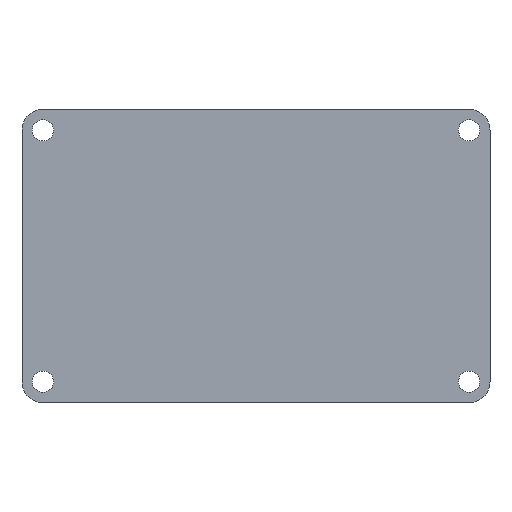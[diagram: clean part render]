
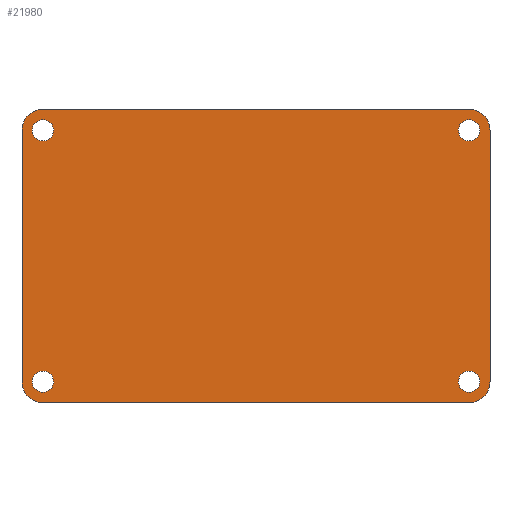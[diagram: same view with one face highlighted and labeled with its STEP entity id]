
A CAD part, front view. The second image highlights one B-rep face of the part: STEP entity #21980.
In plain terms, the highlighted planar face has unit normal (0, -1, 0).
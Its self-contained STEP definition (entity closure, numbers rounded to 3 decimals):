
#158 = VERTEX_POINT ( 'NONE', #6026 ) ;
#530 = EDGE_CURVE ( 'NONE', #39793, #13585, #26598, .T. ) ;
#909 = CIRCLE ( 'NONE', #18501, 1.525 ) ;
#1018 = AXIS2_PLACEMENT_3D ( 'NONE', #2380, #20051, #23168 ) ;
#1256 = FACE_OUTER_BOUND ( 'NONE', #25812, .T. ) ;
#1657 = DIRECTION ( 'NONE',  ( 0., -1., 0. ) ) ;
#1681 = DIRECTION ( 'NONE',  ( -1., 0., 0. ) ) ;
#1705 = DIRECTION ( 'NONE',  ( 0., 0., 1. ) ) ;
#2380 = CARTESIAN_POINT ( 'NONE',  ( -66.412, 0.013, 35.558 ) ) ;
#2740 = CARTESIAN_POINT ( 'NONE',  ( -63.412, 0.013, 37.033 ) ) ;
#2760 = AXIS2_PLACEMENT_3D ( 'NONE', #28518, #13262, #35031 ) ;
#2826 = ORIENTED_EDGE ( 'NONE', *, *, #530, .T. ) ;
#2892 = ORIENTED_EDGE ( 'NONE', *, *, #32408, .T. ) ;
#3193 = EDGE_CURVE ( 'NONE', #38113, #29791, #27199, .T. ) ;
#3337 = CIRCLE ( 'NONE', #2760, 3. ) ;
#3643 = CARTESIAN_POINT ( 'NONE',  ( -2.412, 0.013, 73.033 ) ) ;
#3971 = EDGE_CURVE ( 'NONE', #11602, #4825, #16139, .T. ) ;
#4426 = DIRECTION ( 'NONE',  ( 0., 1., 0. ) ) ;
#4560 = ORIENTED_EDGE ( 'NONE', *, *, #13462, .F. ) ;
#4825 = VERTEX_POINT ( 'NONE', #10258 ) ;
#4918 = DIRECTION ( 'NONE',  ( 1., 0., 0. ) ) ;
#5420 = VERTEX_POINT ( 'NONE', #22602 ) ;
#5807 = CARTESIAN_POINT ( 'NONE',  ( -2.412, 0.013, 40.083 ) ) ;
#6026 = CARTESIAN_POINT ( 'NONE',  ( -2.412, 0.013, 77.558 ) ) ;
#6485 = EDGE_CURVE ( 'NONE', #21504, #39294, #26604, .T. ) ;
#6762 = VERTEX_POINT ( 'NONE', #7851 ) ;
#7087 = DIRECTION ( 'NONE',  ( 0., 0., 1. ) ) ;
#7647 = ORIENTED_EDGE ( 'NONE', *, *, #30108, .F. ) ;
#7851 = CARTESIAN_POINT ( 'NONE',  ( 0.588, 0.013, 74.558 ) ) ;
#8316 = ORIENTED_EDGE ( 'NONE', *, *, #27112, .F. ) ;
#8400 = LINE ( 'NONE', #14582, #18143 ) ;
#8928 = EDGE_CURVE ( 'NONE', #29791, #38113, #26624, .T. ) ;
#9509 = CARTESIAN_POINT ( 'NONE',  ( -66.412, 0.013, 38.558 ) ) ;
#9852 = DIRECTION ( 'NONE',  ( 0., -1., 0. ) ) ;
#9958 = FACE_BOUND ( 'NONE', #18154, .T. ) ;
#10003 = DIRECTION ( 'NONE',  ( 0., 0., 1. ) ) ;
#10257 = PLANE ( 'NONE',  #1018 ) ;
#10258 = CARTESIAN_POINT ( 'NONE',  ( -2.412, 0.013, 37.033 ) ) ;
#11184 = DIRECTION ( 'NONE',  ( 0., 0., 1. ) ) ;
#11602 = VERTEX_POINT ( 'NONE', #5807 ) ;
#11713 = VECTOR ( 'NONE', #1705, 1000. ) ;
#11763 = EDGE_CURVE ( 'NONE', #6762, #158, #3337, .T. ) ;
#12455 = DIRECTION ( 'NONE',  ( 0., 1., 0. ) ) ;
#12926 = ORIENTED_EDGE ( 'NONE', *, *, #22201, .T. ) ;
#13069 = EDGE_LOOP ( 'NONE', ( #18992, #38887 ) ) ;
#13262 = DIRECTION ( 'NONE',  ( 0., -1., 0. ) ) ;
#13400 = ORIENTED_EDGE ( 'NONE', *, *, #38215, .T. ) ;
#13462 = EDGE_CURVE ( 'NONE', #6762, #13585, #18233, .T. ) ;
#13585 = VERTEX_POINT ( 'NONE', #20429 ) ;
#13780 = DIRECTION ( 'NONE',  ( 0., 0., 1. ) ) ;
#14582 = CARTESIAN_POINT ( 'NONE',  ( -66.412, 0.013, 77.558 ) ) ;
#14743 = AXIS2_PLACEMENT_3D ( 'NONE', #16336, #32263, #25979 ) ;
#15237 = CARTESIAN_POINT ( 'NONE',  ( -2.412, 0.013, 35.558 ) ) ;
#15364 = ORIENTED_EDGE ( 'NONE', *, *, #6485, .T. ) ;
#15942 = CARTESIAN_POINT ( 'NONE',  ( -2.412, 0.013, 74.558 ) ) ;
#16139 = CIRCLE ( 'NONE', #16725, 1.525 ) ;
#16336 = CARTESIAN_POINT ( 'NONE',  ( -63.412, 0.013, 74.558 ) ) ;
#16725 = AXIS2_PLACEMENT_3D ( 'NONE', #36178, #17518, #24047 ) ;
#17228 = CARTESIAN_POINT ( 'NONE',  ( -63.412, 0.013, 73.033 ) ) ;
#17518 = DIRECTION ( 'NONE',  ( 0., 1., 0. ) ) ;
#17904 = CARTESIAN_POINT ( 'NONE',  ( -63.412, 0.013, 77.558 ) ) ;
#18143 = VECTOR ( 'NONE', #4918, 1000. ) ;
#18154 = EDGE_LOOP ( 'NONE', ( #34757, #12926 ) ) ;
#18233 = LINE ( 'NONE', #19652, #20169 ) ;
#18501 = AXIS2_PLACEMENT_3D ( 'NONE', #22258, #25380, #10003 ) ;
#18553 = DIRECTION ( 'NONE',  ( 0., 0., 1. ) ) ;
#18733 = AXIS2_PLACEMENT_3D ( 'NONE', #34073, #30543, #18553 ) ;
#18992 = ORIENTED_EDGE ( 'NONE', *, *, #3971, .T. ) ;
#19222 = FACE_BOUND ( 'NONE', #31900, .T. ) ;
#19298 = CARTESIAN_POINT ( 'NONE',  ( -66.412, 0.013, 74.558 ) ) ;
#19472 = ORIENTED_EDGE ( 'NONE', *, *, #29929, .F. ) ;
#19652 = CARTESIAN_POINT ( 'NONE',  ( 0.588, 0.013, 35.558 ) ) ;
#20051 = DIRECTION ( 'NONE',  ( 0., 1., 0. ) ) ;
#20169 = VECTOR ( 'NONE', #35425, 1000. ) ;
#20429 = CARTESIAN_POINT ( 'NONE',  ( 0.588, 0.013, 38.558 ) ) ;
#20479 = EDGE_CURVE ( 'NONE', #26410, #21406, #33041, .T. ) ;
#20568 = ORIENTED_EDGE ( 'NONE', *, *, #3193, .T. ) ;
#21047 = VERTEX_POINT ( 'NONE', #2740 ) ;
#21406 = VERTEX_POINT ( 'NONE', #17228 ) ;
#21423 = DIRECTION ( 'NONE',  ( 0., 0., 1. ) ) ;
#21469 = ORIENTED_EDGE ( 'NONE', *, *, #8928, .T. ) ;
#21504 = VERTEX_POINT ( 'NONE', #17904 ) ;
#21980 = ADVANCED_FACE ( 'NONE', ( #34810, #19222, #24547, #9958, #1256 ), #10257, .F. ) ;
#22064 = DIRECTION ( 'NONE',  ( 0., 0., 1. ) ) ;
#22201 = EDGE_CURVE ( 'NONE', #21406, #26410, #25487, .T. ) ;
#22258 = CARTESIAN_POINT ( 'NONE',  ( -63.412, 0.013, 38.558 ) ) ;
#22484 = AXIS2_PLACEMENT_3D ( 'NONE', #32573, #32425, #13780 ) ;
#22552 = AXIS2_PLACEMENT_3D ( 'NONE', #29818, #1657, #11184 ) ;
#22587 = DIRECTION ( 'NONE',  ( 0., 1., 0. ) ) ;
#22602 = CARTESIAN_POINT ( 'NONE',  ( -63.412, 0.013, 40.083 ) ) ;
#23028 = CARTESIAN_POINT ( 'NONE',  ( -66.412, 0.013, 35.558 ) ) ;
#23067 = AXIS2_PLACEMENT_3D ( 'NONE', #35120, #22587, #7087 ) ;
#23168 = DIRECTION ( 'NONE',  ( 0., 0., 1. ) ) ;
#24047 = DIRECTION ( 'NONE',  ( 0., 0., 1. ) ) ;
#24462 = LINE ( 'NONE', #23028, #30821 ) ;
#24547 = FACE_BOUND ( 'NONE', #38296, .T. ) ;
#25053 = CARTESIAN_POINT ( 'NONE',  ( -63.412, 0.013, 76.083 ) ) ;
#25356 = CARTESIAN_POINT ( 'NONE',  ( -2.412, 0.013, 38.558 ) ) ;
#25380 = DIRECTION ( 'NONE',  ( 0., 1., 0. ) ) ;
#25487 = CIRCLE ( 'NONE', #18733, 1.525 ) ;
#25523 = AXIS2_PLACEMENT_3D ( 'NONE', #27845, #37505, #21423 ) ;
#25812 = EDGE_LOOP ( 'NONE', ( #7647, #15364, #8316, #2892, #19472, #2826, #4560, #38628 ) ) ;
#25979 = DIRECTION ( 'NONE',  ( 0., 0., 1. ) ) ;
#26165 = DIRECTION ( 'NONE',  ( 0., 0., 1. ) ) ;
#26410 = VERTEX_POINT ( 'NONE', #25053 ) ;
#26598 = CIRCLE ( 'NONE', #36393, 3. ) ;
#26604 = CIRCLE ( 'NONE', #22552, 3. ) ;
#26624 = CIRCLE ( 'NONE', #26625, 1.525 ) ;
#26625 = AXIS2_PLACEMENT_3D ( 'NONE', #15942, #12455, #22064 ) ;
#27112 = EDGE_CURVE ( 'NONE', #39132, #39294, #30212, .T. ) ;
#27199 = CIRCLE ( 'NONE', #25523, 1.525 ) ;
#27839 = CARTESIAN_POINT ( 'NONE',  ( -2.412, 0.013, 76.083 ) ) ;
#27845 = CARTESIAN_POINT ( 'NONE',  ( -2.412, 0.013, 74.558 ) ) ;
#28110 = ORIENTED_EDGE ( 'NONE', *, *, #37077, .T. ) ;
#28518 = CARTESIAN_POINT ( 'NONE',  ( -2.412, 0.013, 74.558 ) ) ;
#29791 = VERTEX_POINT ( 'NONE', #27839 ) ;
#29818 = CARTESIAN_POINT ( 'NONE',  ( -63.412, 0.013, 74.558 ) ) ;
#29929 = EDGE_CURVE ( 'NONE', #39793, #33440, #24462, .T. ) ;
#30108 = EDGE_CURVE ( 'NONE', #21504, #158, #8400, .T. ) ;
#30212 = LINE ( 'NONE', #39243, #11713 ) ;
#30543 = DIRECTION ( 'NONE',  ( 0., 1., 0. ) ) ;
#30821 = VECTOR ( 'NONE', #1681, 1000. ) ;
#31758 = DIRECTION ( 'NONE',  ( 0., 0., 1. ) ) ;
#31900 = EDGE_LOOP ( 'NONE', ( #21469, #20568 ) ) ;
#32263 = DIRECTION ( 'NONE',  ( 0., 1., 0. ) ) ;
#32408 = EDGE_CURVE ( 'NONE', #39132, #33440, #38616, .T. ) ;
#32425 = DIRECTION ( 'NONE',  ( 0., -1., 0. ) ) ;
#32573 = CARTESIAN_POINT ( 'NONE',  ( -63.412, 0.013, 38.558 ) ) ;
#33041 = CIRCLE ( 'NONE', #14743, 1.525 ) ;
#33440 = VERTEX_POINT ( 'NONE', #35067 ) ;
#34073 = CARTESIAN_POINT ( 'NONE',  ( -63.412, 0.013, 74.558 ) ) ;
#34757 = ORIENTED_EDGE ( 'NONE', *, *, #20479, .T. ) ;
#34810 = FACE_BOUND ( 'NONE', #13069, .T. ) ;
#34920 = EDGE_CURVE ( 'NONE', #4825, #11602, #40359, .T. ) ;
#35031 = DIRECTION ( 'NONE',  ( 0., 0., 1. ) ) ;
#35067 = CARTESIAN_POINT ( 'NONE',  ( -63.412, 0.013, 35.558 ) ) ;
#35120 = CARTESIAN_POINT ( 'NONE',  ( -2.412, 0.013, 38.558 ) ) ;
#35425 = DIRECTION ( 'NONE',  ( 0., 0., -1. ) ) ;
#35585 = CARTESIAN_POINT ( 'NONE',  ( -63.412, 0.013, 38.558 ) ) ;
#35760 = CIRCLE ( 'NONE', #39681, 1.525 ) ;
#36178 = CARTESIAN_POINT ( 'NONE',  ( -2.412, 0.013, 38.558 ) ) ;
#36393 = AXIS2_PLACEMENT_3D ( 'NONE', #25356, #9852, #31758 ) ;
#37077 = EDGE_CURVE ( 'NONE', #5420, #21047, #909, .T. ) ;
#37505 = DIRECTION ( 'NONE',  ( 0., 1., 0. ) ) ;
#38113 = VERTEX_POINT ( 'NONE', #3643 ) ;
#38215 = EDGE_CURVE ( 'NONE', #21047, #5420, #35760, .T. ) ;
#38296 = EDGE_LOOP ( 'NONE', ( #28110, #13400 ) ) ;
#38616 = CIRCLE ( 'NONE', #22484, 3. ) ;
#38628 = ORIENTED_EDGE ( 'NONE', *, *, #11763, .T. ) ;
#38887 = ORIENTED_EDGE ( 'NONE', *, *, #34920, .T. ) ;
#39132 = VERTEX_POINT ( 'NONE', #9509 ) ;
#39243 = CARTESIAN_POINT ( 'NONE',  ( -66.412, 0.013, 35.558 ) ) ;
#39294 = VERTEX_POINT ( 'NONE', #19298 ) ;
#39681 = AXIS2_PLACEMENT_3D ( 'NONE', #35585, #4426, #26165 ) ;
#39793 = VERTEX_POINT ( 'NONE', #15237 ) ;
#40359 = CIRCLE ( 'NONE', #23067, 1.525 ) ;
